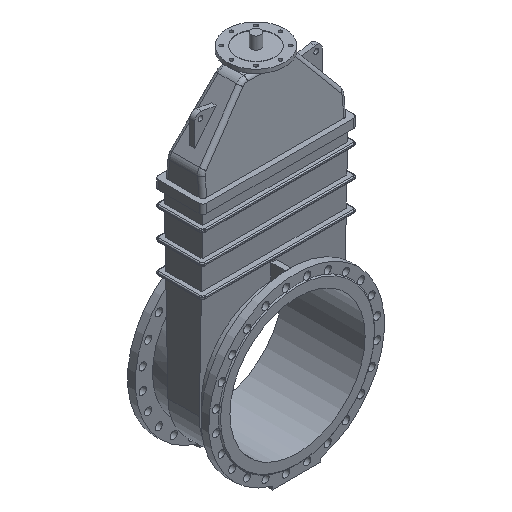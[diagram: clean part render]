
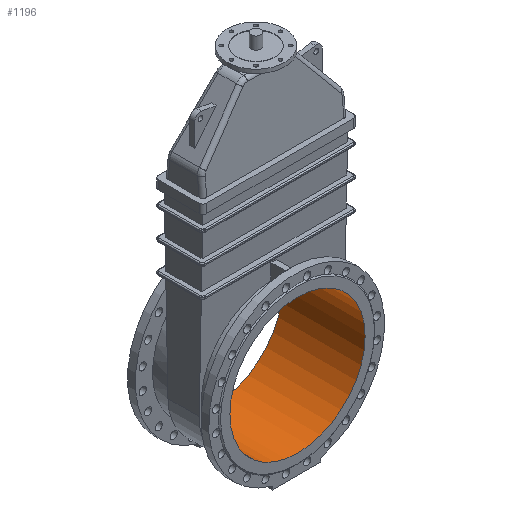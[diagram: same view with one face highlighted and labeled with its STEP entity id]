
A CAD part, isometric view. The second image highlights one B-rep face of the part: STEP entity #1196.
In plain terms, the highlighted cylindrical face has radius 350 mm (diameter 700 mm), a full revolution.
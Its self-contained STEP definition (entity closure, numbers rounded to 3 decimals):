
#1196=ADVANCED_FACE('',(#4064,#4066),#4068,.F.);
#4064=FACE_OUTER_BOUND('',#4065,.T.);
#4065=EDGE_LOOP('',(#7595));
#4066=FACE_OUTER_BOUND('',#4067,.T.);
#4067=EDGE_LOOP('',(#7596));
#4068=CYLINDRICAL_SURFACE('',#4069,350.);
#4069=AXIS2_PLACEMENT_3D('',#4070,#4071,#4072);
#4070=CARTESIAN_POINT('',(0.,215.,0.));
#4071=DIRECTION('',(0.,1.,0.));
#4072=DIRECTION('',(0.,0.,1.));
#7595=ORIENTED_EDGE('',*,*,#8614,.T.);
#7596=ORIENTED_EDGE('',*,*,#8613,.F.);
#8613=EDGE_CURVE('',#9649,#9649,#9650,.T.);
#8614=EDGE_CURVE('',#9651,#9651,#9652,.T.);
#9649=VERTEX_POINT('',#15069);
#9650=CIRCLE('',#15070,350.);
#9651=VERTEX_POINT('',#15074);
#9652=CIRCLE('',#15075,350.);
#15069=CARTESIAN_POINT('',(0.,-215.,350.));
#15070=AXIS2_PLACEMENT_3D('',#15071,#15072,#15073);
#15071=CARTESIAN_POINT('',(0.,-215.,0.));
#15072=DIRECTION('',(0.,1.,0.));
#15073=DIRECTION('',(0.,0.,1.));
#15074=CARTESIAN_POINT('',(0.,215.,350.));
#15075=AXIS2_PLACEMENT_3D('',#15076,#15077,#15078);
#15076=CARTESIAN_POINT('',(0.,215.,0.));
#15077=DIRECTION('',(0.,1.,0.));
#15078=DIRECTION('',(0.,0.,1.));
